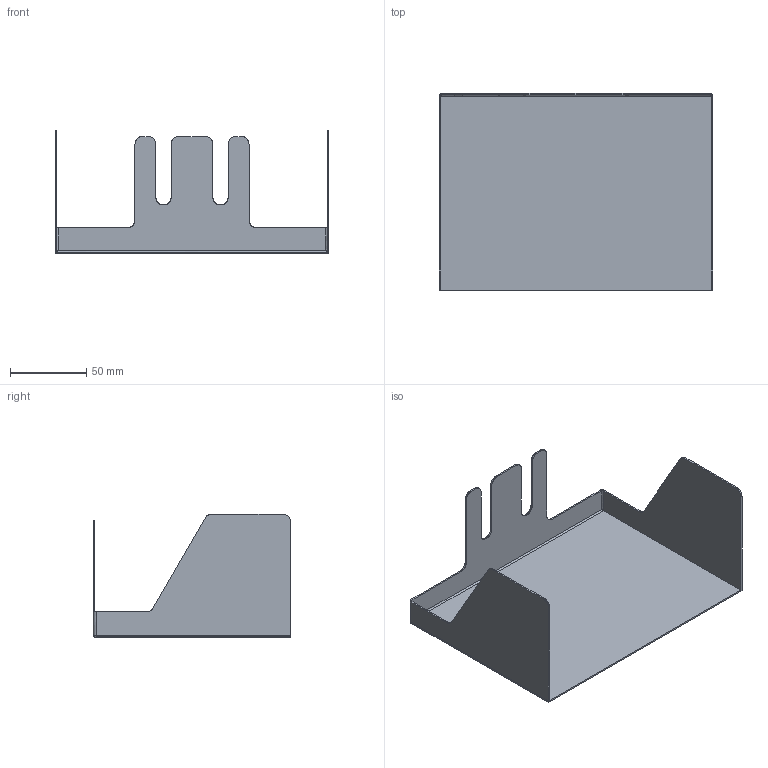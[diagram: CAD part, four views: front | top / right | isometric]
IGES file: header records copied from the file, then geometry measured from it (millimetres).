
Start section: SolidWorks IGES file using analytic representation for surfaces
Global section: file name: C:\Users\User2\Desktop\Lego IGS\Àíòèîñëåïëÿþùèé ýêðàí Lego 4x2.IGS; native system: SolidWorks 2024; preprocessor: SolidWorks 2024; author: User2; date: 251022.124645; units: millimetre
Bounding box: 180 x 130 x 81 mm (x, y, z)
Surface area: 88114.9 mm2 (no closed solid volume)
Topology: 0 solids, 0 shells, 61 faces, 590 edges, 590 vertices
Faces by surface type: bspline 39, revolution 22
